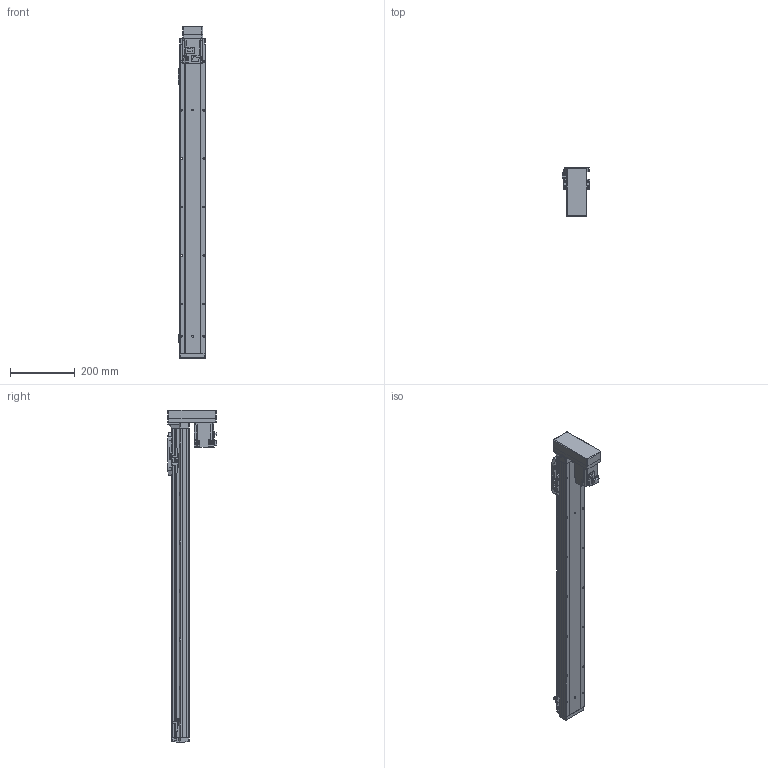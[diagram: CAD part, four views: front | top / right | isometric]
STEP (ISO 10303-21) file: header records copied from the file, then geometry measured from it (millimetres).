
FILE_DESCRIPTION (( 'STEP AP214' ), '1' );
FILE_NAME ('GSH8-800-BM-M20-1.step', '2025-01-07T06:09:13', ( '' ), ( '' ), 'SwSTEP 2.0', 'SolidWorks 2012', '' );
FILE_SCHEMA (( 'AUTOMOTIVE_DESIGN' ));
Length unit declared in the file: millimetre
Products named in the file (5): GSH8-GY-004; GSH8-800-BM-M20-1; HG-KR23_200W_Motor; GSH8-BL-011-800-M20; GSH8-BL-008
Assembly tree (4 placements, depth 2):
  GSH8-800-BM-M20-1
    GSH8-BL-011-800-M20
    GSH8-GY-004
    GSH8-BL-008
    HG-KR23_200W_Motor
Bounding box: 84 x 152.3 x 1028.2 mm (x, y, z)
Volume: 2381217.9 mm3; surface area: 611811.3 mm2
Topology: 4 solids, 8 shells, 1148 faces, 3017 edges, 1942 vertices
Faces by surface type: plane 648, cylinder 404, torus 42, cone 26, bspline 24, sphere 4
Entity records: 46127 total; most frequent: CARTESIAN_POINT 11360, DIRECTION 6125, ORIENTED_EDGE 6018, EDGE_CURVE 3009, AXIS2_PLACEMENT_3D 2063, LINE 1999, VECTOR 1999, VERTEX_POINT 1938
